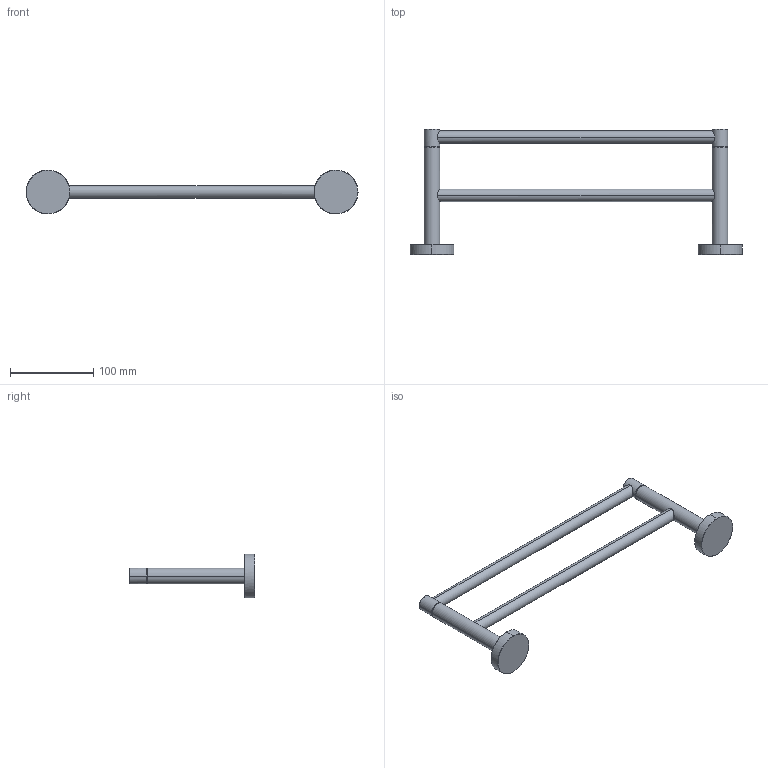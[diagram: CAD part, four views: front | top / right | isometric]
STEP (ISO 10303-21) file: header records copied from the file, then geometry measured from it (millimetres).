
FILE_DESCRIPTION(('THIS FILE CONTAINS SOME STEP INSTANCES'),'1');
FILE_NAME('HAR 029-light.stp','2015-11-17T13:53:07',('UNDEFINED'),('UNDEFINED'),'T-FLEX CAD STEP converter','T-FLEX CAD','');
FILE_SCHEMA(('CONFIG_CONTROL_DESIGN'));
Length unit declared in the file: metre
Products named in the file (1): har_029
Bounding box: 399.99 x 151 x 53 mm (x, y, z)
Volume: 248181.8 mm3; surface area: 59835.6 mm2
Topology: 1 solids, 1 shells, 62 faces, 140 edges, 84 vertices
Faces by surface type: cone 24, cylinder 20, plane 10, bspline 8
Entity records: 5207 total; most frequent: CARTESIAN_POINT 4058, ORIENTED_EDGE 280, DIRECTION 174, EDGE_CURVE 140, VERTEX_POINT 84, EDGE_LOOP 68, AXIS2_PLACEMENT_3D 65, ADVANCED_FACE 62
